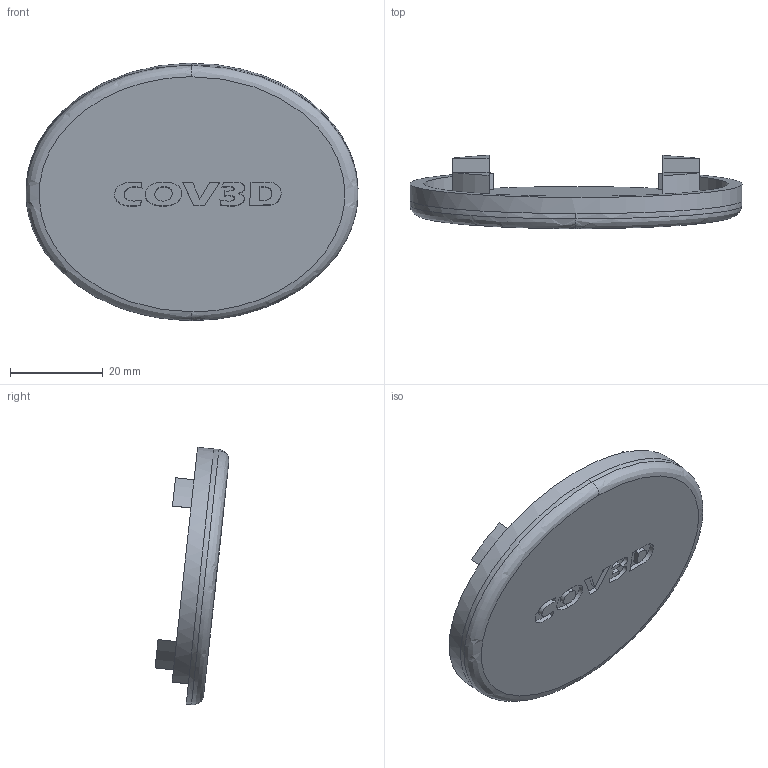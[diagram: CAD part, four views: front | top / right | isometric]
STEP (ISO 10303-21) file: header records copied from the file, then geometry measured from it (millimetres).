
FILE_DESCRIPTION(/* description */ (''),/* implementation_level */ '2;1');
FILE_NAME(/* name */ 'XS-MED~1',/* time_stamp */ '2020-04-10T21:56:20+03:00',/* author */ (''),/* organization */ (''),/* preprocessor_version */ 'ST-DEVELOPER v16.5',/* originating_system */ '',/* authorisation */ '');
FILE_SCHEMA (('AUTOMOTIVE_DESIGN'));
Length unit declared in the file: millimetre
Products named in the file (1): Document
Bounding box: 71.5 x 15.91 x 55.45 mm (x, y, z)
Volume: 12780.2 mm3; surface area: 8667.4 mm2
Topology: 1 solids, 1 shells, 67 faces, 158 edges, 104 vertices
Faces by surface type: bspline 44, plane 23
Entity records: 2836 total; most frequent: CARTESIAN_POINT 1768, ORIENTED_EDGE 316, EDGE_CURVE 158, B_SPLINE_CURVE_WITH_KNOTS 131, VERTEX_POINT 104, EDGE_LOOP 78, ADVANCED_FACE 67, FACE_OUTER_BOUND 67
